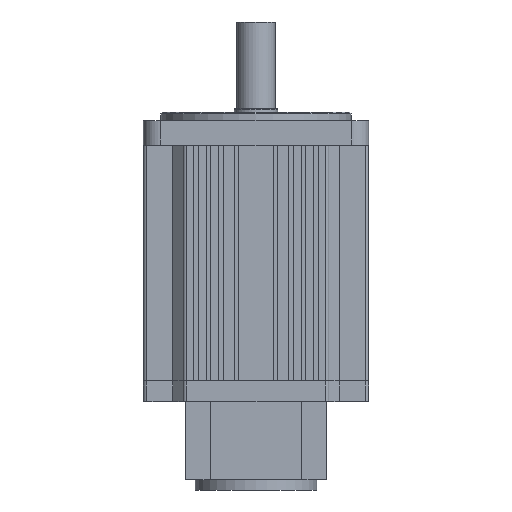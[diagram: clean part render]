
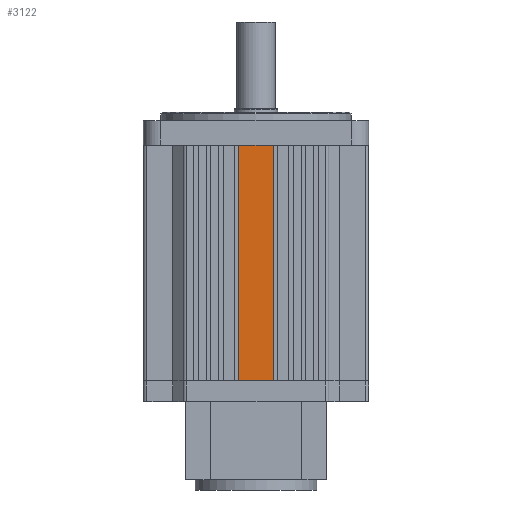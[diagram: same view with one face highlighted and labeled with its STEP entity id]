
A CAD part, front view. The second image highlights one B-rep face of the part: STEP entity #3122.
In plain terms, the highlighted planar face has unit normal (0, -1, 0).
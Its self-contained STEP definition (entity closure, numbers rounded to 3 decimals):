
#88 = AXIS2_PLACEMENT_3D ( 'NONE', #12528, #7303, #14953 ) ;
#242 = VECTOR ( 'NONE', #15963, 1000. ) ;
#1407 = DIRECTION ( 'NONE',  ( -1., 0., 0. ) ) ;
#1751 = VECTOR ( 'NONE', #12338, 1000. ) ;
#2338 = VERTEX_POINT ( 'NONE', #9456 ) ;
#2377 = LINE ( 'NONE', #14876, #1751 ) ;
#2554 = ORIENTED_EDGE ( 'NONE', *, *, #7176, .T. ) ;
#2759 = CARTESIAN_POINT ( 'NONE',  ( 25., 0., 0. ) ) ;
#2981 = EDGE_CURVE ( 'NONE', #11659, #2338, #11489, .T. ) ;
#2989 = EDGE_CURVE ( 'NONE', #11863, #2338, #13524, .T. ) ;
#3122 = ADVANCED_FACE ( 'NONE', ( #5448 ), #15357, .T. ) ;
#3581 = EDGE_LOOP ( 'NONE', ( #8069, #2554, #5640, #14736 ) ) ;
#5448 = FACE_OUTER_BOUND ( 'NONE', #3581, .T. ) ;
#5640 = ORIENTED_EDGE ( 'NONE', *, *, #2989, .T. ) ;
#5829 = DIRECTION ( 'NONE',  ( 0., 0., -1. ) ) ;
#5867 = EDGE_CURVE ( 'NONE', #11659, #8126, #2377, .T. ) ;
#7077 = CARTESIAN_POINT ( 'NONE',  ( 55.114, 0., -136. ) ) ;
#7176 = EDGE_CURVE ( 'NONE', #8126, #11863, #15185, .T. ) ;
#7303 = DIRECTION ( 'NONE',  ( 0., -1., 0. ) ) ;
#8069 = ORIENTED_EDGE ( 'NONE', *, *, #5867, .T. ) ;
#8126 = VERTEX_POINT ( 'NONE', #9561 ) ;
#9119 = VECTOR ( 'NONE', #1407, 1000. ) ;
#9456 = CARTESIAN_POINT ( 'NONE',  ( 55.114, 0., -136. ) ) ;
#9561 = CARTESIAN_POINT ( 'NONE',  ( 74.886, 0., 0. ) ) ;
#9658 = CARTESIAN_POINT ( 'NONE',  ( 25., 0., -136. ) ) ;
#11489 = LINE ( 'NONE', #9658, #242 ) ;
#11659 = VERTEX_POINT ( 'NONE', #14019 ) ;
#11863 = VERTEX_POINT ( 'NONE', #12753 ) ;
#12338 = DIRECTION ( 'NONE',  ( 0., 0., 1. ) ) ;
#12528 = CARTESIAN_POINT ( 'NONE',  ( 25., 0., -136. ) ) ;
#12753 = CARTESIAN_POINT ( 'NONE',  ( 55.114, 0., 0. ) ) ;
#13524 = LINE ( 'NONE', #7077, #16111 ) ;
#14019 = CARTESIAN_POINT ( 'NONE',  ( 74.886, 0., -136. ) ) ;
#14736 = ORIENTED_EDGE ( 'NONE', *, *, #2981, .F. ) ;
#14876 = CARTESIAN_POINT ( 'NONE',  ( 74.886, 0., -136. ) ) ;
#14953 = DIRECTION ( 'NONE',  ( 0., 0., -1. ) ) ;
#15185 = LINE ( 'NONE', #2759, #9119 ) ;
#15357 = PLANE ( 'NONE',  #88 ) ;
#15963 = DIRECTION ( 'NONE',  ( -1., 0., 0. ) ) ;
#16111 = VECTOR ( 'NONE', #5829, 1000. ) ;
